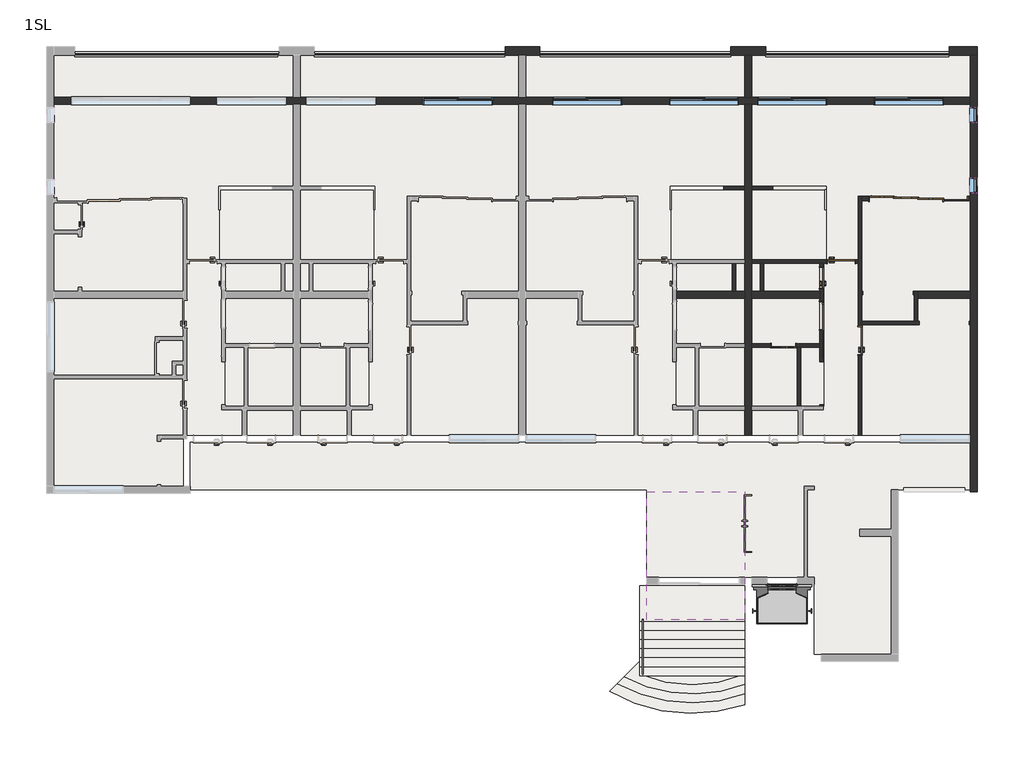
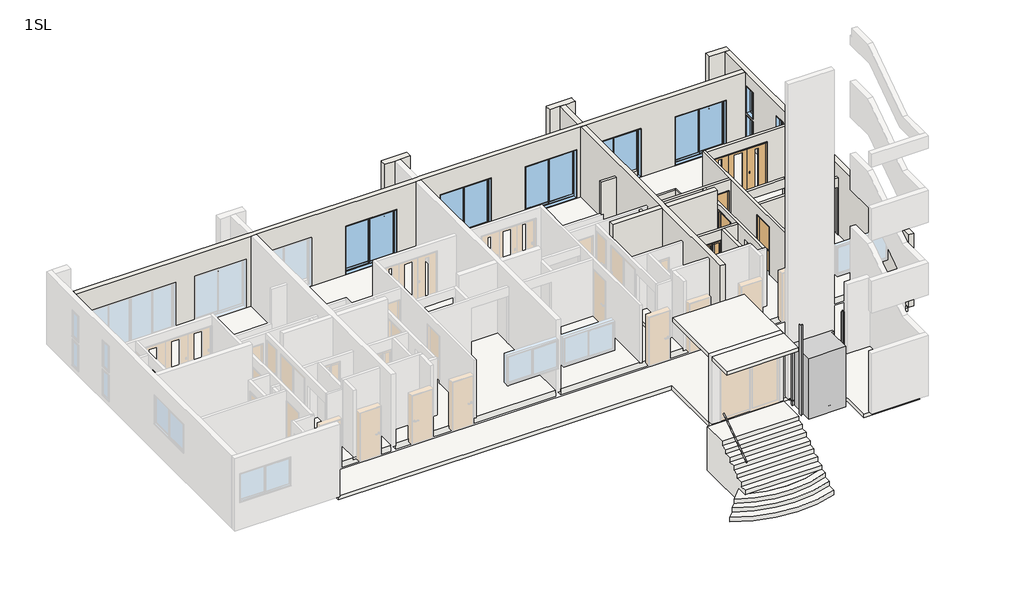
# One storey, part 3 of 3: 23 walls, 15 slabs, 9 windows, 6 doors, 4 railings, 2 plates, 2 proxies.
"""IFC4 building model written with IfcOpenShell, lengths in millimetres."""

from ifc_helpers import new_model, si_unit, frame, origin, place, context, project, spatial, polyline, outline, extrude, faceted_brep, transform, mapped, element, save
from components import generic_models_6d567278, specialty_equipment_c2b478e0, door_c7dcdbed, door_8f2de950, door_3b96e66a, door_aabc7979, door_3f60c47c, door_31a51f76, system_panel_37aab131, system_panel_3b8cd947, railing_c7063d63, railing_074a9b7f, railing_fb2e8326, railing_f43283ec, slab_74460c11, window_4c3e1407, window_5dc29a3f, window_ec430ee0, window_a2a98c4b, w0450_h1100_93ba837a, w0450_h1100_e5a89885

model = new_model("IFC4")

# Units and contexts
model_context = context("Model", 3, world=origin())
ifc_project = project(units=[si_unit("LENGTHUNIT", "METRE", prefix="MILLI")], contexts=[model_context])

# Site, building, storey
site = spatial("IfcSite", under=ifc_project)
building = spatial("IfcBuilding", under=site)
storey = spatial("IfcBuildingStorey", under=building, Name="1SL", Elevation=1000.0)

# Proxies
placement = place(None, origin())
generic_models_shape = generic_models_6d567278(model_context)
element("IfcBuildingElementProxy", 1, Name="玄関手摺 : 玄関手摺", ObjectType="玄関手摺 : 玄関手摺", at=placement, inside=storey, context=model_context, shape_type="MappedRepresentation", body=[
    mapped(generic_models_shape, transform((17290.0, 0.0, 1100.0), x_axis=(1.0, 0.0, 0.0), y_axis=(0.0, 1.0, 0.0), z_axis=(0.0, 0.0, 1.0))),
])
specialty_equipment_shape = specialty_equipment_c2b478e0(model_context)
element("IfcBuildingElementProxy", 2, Name="エレベーター_ガラス扉 : 6人乗", ObjectType="エレベーター_ガラス扉 : 6人乗", at=placement, inside=storey, context=model_context, shape_type="MappedRepresentation", body=[
    mapped(specialty_equipment_shape, transform((10204.3805904, -4969.7401342, 1000.0), x_axis=(1.0, 0.0, 0.0), y_axis=(0.0, 1.0, 0.0), z_axis=(0.0, 0.0, 1.0))),
])

# Doors
door_shape = door_c7dcdbed(model_context)
element("IfcDoor", 3, ObjectType="木製_片開き_フラッシュ : WD-2 w600h2000", at=placement, inside=storey, context=model_context, shape_type="MappedRepresentation", body=[
    mapped(door_shape, transform((11454.3805905, 3696.254513, 1210.0), x_axis=(0.0, 1.0, 0.0), y_axis=(-1.0, 0.0, 0.0), z_axis=(0.0, 0.0, 1.0))),
])
door_2_shape = door_8f2de950(model_context)
element("IfcDoor", 4, ObjectType="木製_片開き_フラッシュ : WD-1\u3000w800h2000", at=placement, inside=storey, context=model_context, shape_type="MappedRepresentation", body=[
    mapped(door_2_shape, transform((12554.3805905, 1900.2598658, 1060.0), x_axis=(0.0, 1.0, 0.0), y_axis=(-1.0, 0.0, 0.0), z_axis=(0.0, 0.0, 1.0))),
])
door_3_shape = door_3b96e66a(model_context)
element("IfcDoor", 5, ObjectType="木製_片開き_フラッシュ : WD-1\u3000w800h2000", at=placement, inside=storey, context=model_context, shape_type="MappedRepresentation", body=[
    mapped(door_3_shape, transform((12014.3805905, 4160.2598658, 1000.0), x_axis=(1.0, 0.0, 0.0), y_axis=(0.0, 1.0, 0.0), z_axis=(0.0, 0.0, 1.0))),
])
door_4_shape = door_aabc7979(model_context)
element("IfcDoor", 6, ObjectType="木製_折戸2枚_フラッシュ(UB) : UB-1 w600h2000", at=placement, inside=storey, context=model_context, shape_type="MappedRepresentation", body=[
    mapped(door_4_shape, transform((10364.3805905, 1760.2598658, 1000.0), x_axis=(-1.0, 0.0, 0.0), y_axis=(0.0, -1.0, 0.0), z_axis=(0.0, 0.0, 1.0))),
])
door_5_shape = door_3f60c47c(model_context)
element("IfcDoor", 7, ObjectType="木製_片引き_フラッシュ : WD-4 w800h2000", at=placement, inside=storey, context=model_context, shape_type="MappedRepresentation", body=[
    mapped(door_5_shape, transform((11454.3805905, 2610.719009, 1210.0), x_axis=(0.0, -1.0, 0.0), y_axis=(1.0, 0.0, 0.0), z_axis=(0.0, 0.0, 1.0))),
])
door_6_shape = door_31a51f76(model_context)
element("IfcDoor", 8, ObjectType="木製_片引き3枚_フラッシュ2 : WD-9 w2100h2000", at=placement, inside=storey, context=model_context, shape_type="MappedRepresentation", body=[
    mapped(door_6_shape, transform((13879.9160944, 5960.2598658, 1060.0), x_axis=(1.0, 0.0, 0.0), y_axis=(0.0, 1.0, 0.0), z_axis=(0.0, 0.0, 1.0))),
])

# Plates
system_panel_shape = system_panel_37aab131(model_context)
element("IfcPlate", 9, ObjectType="システム パネル : System Panel", at=placement, inside=storey, context=model_context, shape_type="MappedRepresentation", body=[
    mapped(system_panel_shape, transform((6129.3805905, 10097.7598658, 1000.0), x_axis=(1.0, 0.0, 0.0), y_axis=(0.0, 1.0, 0.0), z_axis=(0.0, 0.0, 1.0))),
])
system_panel_2_shape = system_panel_3b8cd947(model_context)
element("IfcPlate", 10, ObjectType="システム パネル : System Panel", at=placement, inside=storey, context=model_context, shape_type="MappedRepresentation", body=[
    mapped(system_panel_2_shape, transform((12479.3805905, 10097.7598658, 1000.0), x_axis=(-1.0, 0.0, 0.0), y_axis=(0.0, -1.0, 0.0), z_axis=(0.0, 0.0, 1.0))),
])

# Railings
railing_shape = railing_c7063d63(model_context)
element("IfcRailing", 11, ObjectType="バルコニー手摺", at=placement, inside=storey, context=model_context, shape_type="MappedRepresentation", body=[
    mapped(railing_shape, transform((0.0, 0.0, 0.0), x_axis=(1.0, 0.0, 0.0), y_axis=(0.0, 1.0, 0.0), z_axis=(0.0, 0.0, 1.0))),
])
railing_2_shape = railing_074a9b7f(model_context)
element("IfcRailing", 12, ObjectType="バルコニー手摺", at=placement, inside=storey, context=model_context, shape_type="MappedRepresentation", body=[
    mapped(railing_2_shape, transform((0.0, 0.0, 0.0), x_axis=(1.0, 0.0, 0.0), y_axis=(0.0, 1.0, 0.0), z_axis=(0.0, 0.0, 1.0))),
])
railing_3_shape = railing_fb2e8326(model_context)
element("IfcRailing", 13, ObjectType="バルコニー手摺", at=placement, inside=storey, context=model_context, shape_type="MappedRepresentation", body=[
    mapped(railing_3_shape, transform((0.0, 0.0, 0.0), x_axis=(1.0, 0.0, 0.0), y_axis=(0.0, 1.0, 0.0), z_axis=(0.0, 0.0, 1.0))),
])
railing_4_shape = railing_f43283ec(model_context)
element("IfcRailing", 14, ObjectType="バルコニー手摺", at=placement, inside=storey, context=model_context, shape_type="MappedRepresentation", body=[
    mapped(railing_4_shape, transform((0.0, 0.0, 0.0), x_axis=(1.0, 0.0, 0.0), y_axis=(0.0, 1.0, 0.0), z_axis=(0.0, 0.0, 1.0))),
])

# Slabs
element("IfcSlab", 15, ObjectType="SCON150", at=placement, inside=storey, context=model_context, shape_type="SweptSolid", body=[
    extrude(outline(polyline([(-10495.6194095, 10159.9866207), (-3645.6194095, 10159.9866207), (-3645.6194095, 8860.2598658), (-10495.6194095, 8860.2598658), (-10495.6194095, 10159.9866207)])), frame((0.0, 0.0, 750.0), z_axis=(0.0, 0.0, 1.0), x_axis=(1.0, 0.0, 0.0)), (0.0, 0.0, 1.0), 150.0),
])
element("IfcSlab", 16, ObjectType="SCON150", at=placement, inside=storey, context=model_context, shape_type="SweptSolid", body=[
    extrude(outline(polyline([(15704.3805905, 8860.2598658), (9454.3805905, 8860.2598658), (9454.3805905, 10159.9866207), (15704.3805905, 10159.9866207), (15704.3805905, 8860.2598658)])), frame((0.0, 0.0, 750.0), z_axis=(0.0, 0.0, 1.0), x_axis=(1.0, 0.0, 0.0)), (0.0, 0.0, 1.0), 150.0),
])
element("IfcSlab", 17, ObjectType="SCON150+100", at=placement, inside=storey, context=model_context, shape_type="SweptSolid", body=[
    extrude(outline(polyline([(-10495.6194095, 8860.2598658), (-3645.6194095, 8860.2598658), (-3645.6194095, 6215.254513), (-5745.6194095, 6215.254513), (-5745.6194095, 4210.2598658), (-5595.6194095, 4210.2598658), (-5595.6194095, 30.2598658), (-3645.6194095, 30.2598658), (-3645.6194095, -809.7401342), (-6795.6194095, -809.7401342), (-6795.6194095, -2259.7401342), (-10495.6194095, -2259.7401342), (-10495.6194095, 8860.2598658)])), frame((0.0, 0.0, 850.0), z_axis=(0.0, 0.0, 1.0), x_axis=(1.0, 0.0, 0.0)), (0.0, 0.0, 1.0), 250.0),
])
element("IfcSlab", 18, ObjectType="SCON150+210", at=placement, inside=storey, context=model_context, shape_type="SweptSolid", body=[
    extrude(outline(polyline([(-5745.6194095, 6215.254513), (-3645.6194095, 6215.254513), (-3645.6194095, 30.2598658), (-5595.6194095, 30.2598658), (-5595.6194095, 4210.2598658), (-5745.6194095, 4210.2598658), (-5745.6194095, 6215.254513)])), frame((0.0, 0.0, 850.0), z_axis=(0.0, 0.0, 1.0), x_axis=(1.0, 0.0, 0.0)), (0.0, 0.0, 1.0), 360.0),
])
element("IfcSlab", 19, ObjectType="SCON150+100", at=placement, inside=storey, context=model_context, shape_type="SweptSolid", body=[
    extrude(outline(polyline([(2804.3805905, 8860.2598658), (2804.3805905, -809.7401342), (-3445.6194095, -809.7401342), (-3445.6194095, 30.2598658), (-1495.6194095, 30.2598658), (-1495.6194095, 4210.2598658), (-1345.6194095, 4210.2598658), (-1345.6194095, 6215.254513), (-3445.6194095, 6215.254513), (-3445.6194095, 8860.2598658), (2804.3805905, 8860.2598658)])), frame((0.0, 0.0, 850.0), z_axis=(0.0, 0.0, 1.0), x_axis=(1.0, 0.0, 0.0)), (0.0, 0.0, 1.0), 250.0),
])
element("IfcSlab", 20, ObjectType="SCON150+210", at=placement, inside=storey, context=model_context, shape_type="SweptSolid", body=[
    extrude(outline(polyline([(-1345.6194095, 6215.254513), (-1345.6194095, 4210.2598658), (-1495.6194095, 4210.2598658), (-1495.6194095, 30.2598658), (-3445.6194095, 30.2598658), (-3445.6194095, 6215.254513), (-1345.6194095, 6215.254513)])), frame((0.0, 0.0, 850.0), z_axis=(0.0, 0.0, 1.0), x_axis=(1.0, 0.0, 0.0)), (0.0, 0.0, 1.0), 360.0),
])
element("IfcSlab", 21, ObjectType="SCON150+100", at=placement, inside=storey, context=model_context, shape_type="SweptSolid", body=[
    extrude(outline(polyline([(3004.3805905, 8760.2598658), (9254.3805905, 8760.2598658), (9254.3805905, 6215.254513), (7154.3805905, 6215.254513), (7154.3805905, 4210.2598658), (7304.3805905, 4210.2598658), (7304.3805905, 30.2598658), (9254.3805905, 30.2598658), (9254.3805905, -809.7401342), (3004.3805905, -809.7401342), (3004.3805905, 8760.2598658)])), frame((0.0, 0.0, 850.0), z_axis=(0.0, 0.0, 1.0), x_axis=(1.0, 0.0, 0.0)), (0.0, 0.0, 1.0), 250.0),
])
element("IfcSlab", 22, ObjectType="SCON150+210", at=placement, inside=storey, context=model_context, shape_type="SweptSolid", body=[
    extrude(outline(polyline([(7154.3805905, 6215.254513), (9254.3805905, 6215.254513), (9254.3805905, 30.2598658), (7304.3805905, 30.2598658), (7304.3805905, 4210.2598658), (7154.3805905, 4210.2598658), (7154.3805905, 6215.254513)])), frame((0.0, 0.0, 850.0), z_axis=(0.0, 0.0, 1.0), x_axis=(1.0, 0.0, 0.0)), (0.0, 0.0, 1.0), 360.0),
])
element("IfcSlab", 23, ObjectType="SCON150+100", at=placement, inside=storey, context=model_context, shape_type="SweptSolid", body=[
    extrude(outline(polyline([(15704.3805905, -809.7401342), (9454.3805905, -809.7401342), (9454.3805905, 30.2598658), (11514.3805905, 30.2598658), (11514.3805905, 4210.2598658), (11583.8805905, 4210.2598658), (11583.8805905, 6215.254513), (9454.3805905, 6215.254513), (9454.3805905, 8760.2598658), (15704.3805905, 8760.2598658), (15704.3805905, -809.7401342)])), frame((0.0, 0.0, 850.0), z_axis=(0.0, 0.0, 1.0), x_axis=(1.0, 0.0, 0.0)), (0.0, 0.0, 1.0), 250.0),
])
element("IfcSlab", 24, ObjectType="SCON150+210", at=placement, inside=storey, context=model_context, shape_type="SweptSolid", body=[
    extrude(outline(polyline([(11583.8805905, 6215.254513), (11583.8805905, 4210.2598658), (11514.3805905, 4210.2598658), (11514.3805905, 30.2598658), (9454.3805905, 30.2598658), (9454.3805905, 6215.254513), (11583.8805905, 6215.254513)])), frame((0.0, 0.0, 850.0), z_axis=(0.0, 0.0, 1.0), x_axis=(1.0, 0.0, 0.0)), (0.0, 0.0, 1.0), 360.0),
])
element("IfcSlab", 25, ObjectType="SCON150", at=placement, inside=storey, context=model_context, shape_type="SweptSolid", body=[
    extrude(outline(polyline([(-6595.6194095, -1009.7401342), (15704.3805905, -1009.7401342), (15704.3805905, -2359.7401342), (13454.3805905, -2359.7401342), (13454.3805905, -7069.7401342), (11254.3805905, -7069.7401342), (11254.3805905, -4869.7401342), (6454.3805905, -4869.7401342), (6454.3805905, -2359.7401342), (-6595.6194095, -2359.7401342), (-6595.6194095, -1009.7401342)])), frame((0.0, 0.0, 800.0), z_axis=(0.0, 0.0, 1.0), x_axis=(1.0, 0.0, 0.0)), (0.0, 0.0, 1.0), 150.0),
])
element("IfcSlab", 26, ObjectType="SCON150", at=placement, inside=storey, context=model_context, shape_type="SweptSolid", body=[
    extrude(outline(polyline([(3004.3805905, 10159.9866207), (9254.3805905, 10159.9866207), (9254.3805905, 8860.2598658), (3004.3805905, 8860.2598658), (3004.3805905, 10159.9866207)])), frame((0.0, 0.0, 750.0), z_axis=(0.0, 0.0, 1.0), x_axis=(1.0, 0.0, 0.0)), (0.0, 0.0, 1.0), 150.0),
])
element("IfcSlab", 27, ObjectType="SCON150", at=placement, inside=storey, context=model_context, shape_type="SweptSolid", body=[
    extrude(outline(polyline([(2804.3805905, 10159.9866207), (2804.3805905, 8860.2598658), (-3445.6194095, 8860.2598658), (-3445.6194095, 10159.9866207), (2804.3805905, 10159.9866207)])), frame((0.0, 0.0, 800.0), z_axis=(0.0, 0.0, 1.0), x_axis=(1.0, 0.0, 0.0)), (0.0, 0.0, 1.0), 150.0),
])
element("IfcSlab", 28, ObjectType="SCON150", at=placement, inside=storey, context=model_context, shape_type="SweptSolid", body=[
    extrude(outline(polyline([(9254.3805905, -2419.7401342), (9254.3805905, -6079.7401342), (6454.3805905, -6079.7401342), (6454.3805905, -2419.7401342), (9254.3805905, -2419.7401342)])), frame((0.0, 0.0, 3650.0), z_axis=(0.0, 0.0, 1.0), x_axis=(1.0, 0.0, 0.0)), (0.0, 0.0, 1.0), 150.0),
])
slab_shape = slab_74460c11(model_context)
element("IfcSlab", 29, ObjectType="ENT階段1 : ENT階段", at=placement, inside=storey, context=model_context, shape_type="MappedRepresentation", body=[
    mapped(slab_shape, transform((0.0, 0.0, 0.0), x_axis=(1.0, 0.0, 0.0), y_axis=(0.0, 1.0, 0.0), z_axis=(0.0, 0.0, 1.0))),
])

# Walls
element("IfcWall", 30, ObjectType="(F)30", at=placement, inside=storey, context=model_context, shape_type="Brep", body=[
    faceted_brep([(11553.8805905, 6215.254513, 1060.0), (11553.8805905, 5645.254513, 1060.0), (11553.8805905, 5645.254513, 2120.0), (11553.8805905, 6215.254513, 2120.0), (11583.8805905, 6215.254513, 1060.0), (11583.8805905, 6215.254513, 2060.0), (11583.8805905, 6215.254513, 2120.0), (11583.8805905, 5645.254513, 2120.0), (11583.8805905, 5645.254513, 1060.0)], [[[0, 1, 2, 3]], [[4, 5, 6, 7, 8]], [[1, 0, 4, 8]], [[2, 1, 8, 7]], [[3, 2, 7, 6]], [[0, 3, 6, 5, 4]]]),
])
element("IfcWall", 31, ObjectType="(L)100", at=placement, inside=storey, context=model_context, shape_type="SweptSolid", body=[
    extrude(outline(polyline([(9254.3805905, 6215.254513), (8654.3805905, 6215.254513), (8654.3805905, 6315.254513), (9254.3805905, 6315.254513), (9254.3805905, 6215.254513)])), frame((0.0, 0.0, 1000.0), z_axis=(0.0, 0.0, 1.0), x_axis=(1.0, 0.0, 0.0)), (0.0, 0.0, 1.0), 2400.0),
])
element("IfcWall", 32, ObjectType="(L)100", at=placement, inside=storey, context=model_context, shape_type="SweptSolid", body=[
    extrude(outline(polyline([(8904.3805905, 3310.2598658), (8904.3805905, 4110.2598658), (9004.3805905, 4110.2598658), (9004.3805905, 3310.2598658), (8904.3805905, 3310.2598658)])), frame((0.0, 0.0, 1000.0), z_axis=(0.0, 0.0, 1.0), x_axis=(1.0, 0.0, 0.0)), (0.0, 0.0, 1.0), 2460.0),
])
element("IfcWall", 33, ObjectType="(L)100", at=placement, inside=storey, context=model_context, shape_type="Brep", body=[
    faceted_brep([(12504.3805905, 1480.2598658, 3080.0), (12504.3805905, 1480.2598658, 1060.0), (12504.3805905, -809.7401342, 1060.0), (12504.3805905, -809.7401342, 3460.0), (12504.3805905, 4110.2598658, 3460.0), (12504.3805905, 4210.2598658, 3460.0), (12504.3805905, 6022.7598658, 3460.0), (12504.3805905, 6022.7598658, 1060.0), (12504.3805905, 2320.2598658, 1060.0), (12504.3805905, 2320.2598658, 3080.0), (12604.3805905, -809.7401342, 1060.0), (12604.3805905, 1480.2598658, 1060.0), (12604.3805905, 1480.2598658, 3080.0), (12604.3805905, 2320.2598658, 3080.0), (12604.3805905, 2320.2598658, 1060.0), (12604.3805905, 2360.2598658, 1060.0), (12604.3805905, 2460.2598658, 1060.0), (12604.3805905, 5897.7598658, 1060.0), (12604.3805905, 6022.7598658, 1060.0), (12604.3805905, 6022.7598658, 3460.0), (12604.3805905, 5897.7598658, 3460.0), (12604.3805905, 3310.2598658, 3460.0), (12604.3805905, 3210.2598658, 3460.0), (12604.3805905, 2460.2598658, 3460.0), (12604.3805905, 2360.2598658, 3460.0), (12604.3805905, -809.7401342, 3460.0)], [[[0, 1, 2, 3, 4, 5, 6, 7, 8, 9]], [[10, 11, 12, 13, 14, 15, 16, 17, 18, 19, 20, 21, 22, 23, 24, 25]], [[2, 1, 11, 10]], [[8, 7, 18, 17, 16, 15, 14]], [[6, 5, 4, 3, 25, 24, 23, 22, 21, 20, 19]], [[7, 6, 19, 18]], [[3, 2, 10, 25]], [[14, 13, 9, 8]], [[12, 11, 1, 0]], [[13, 12, 0, 9]]]),
])
element("IfcWall", 34, ObjectType="(L)100", at=placement, inside=storey, context=model_context, shape_type="Brep", body=[
    faceted_brep([(15704.3805905, 2460.2598658, 1060.0), (15684.3805905, 2460.2598658, 1060.0), (15684.3805905, 2460.2598658, 3080.0), (14244.3805905, 2460.2598658, 3080.0), (14244.3805905, 2460.2598658, 1060.0), (12604.3805905, 2460.2598658, 1060.0), (12604.3805905, 2460.2598658, 3460.0), (14104.3805905, 2460.2598658, 3460.0), (14204.3805905, 2460.2598658, 3460.0), (15704.3805905, 2460.2598658, 3460.0), (15684.3805905, 2360.2598658, 3080.0), (15684.3805905, 2360.2598658, 1060.0), (15704.3805905, 2360.2598658, 1060.0), (15704.3805905, 2360.2598658, 3460.0), (12604.3805905, 2360.2598658, 3460.0), (12604.3805905, 2360.2598658, 1060.0), (14244.3805905, 2360.2598658, 1060.0), (14244.3805905, 2360.2598658, 3080.0)], [[[0, 1, 2, 3, 4, 5, 6, 7, 8, 9]], [[10, 11, 12, 13, 14, 15, 16, 17]], [[12, 11, 1, 0]], [[16, 15, 5, 4]], [[9, 8, 7, 6, 14, 13]], [[0, 9, 13, 12]], [[6, 5, 15, 14]], [[4, 3, 17, 16]], [[2, 1, 11, 10]], [[3, 2, 10, 17]]]),
])
element("IfcWall", 35, ObjectType="(L)100", at=placement, inside=storey, context=model_context, shape_type="Brep", body=[
    faceted_brep([(14104.3805905, 3310.2598658, 1000.0), (14104.3805905, 3210.2598658, 1000.0), (14104.3805905, 2460.2598658, 1000.0), (14104.3805905, 2460.2598658, 3460.0), (14104.3805905, 3210.2598658, 3460.0), (14104.3805905, 3310.2598658, 3460.0), (14204.3805905, 3310.2598658, 1000.0), (14204.3805905, 3310.2598658, 3460.0), (14204.3805905, 2460.2598658, 3460.0), (14204.3805905, 2460.2598658, 1000.0), (14204.3805905, 3110.2598658, 1000.0)], [[[0, 1, 2, 3, 4, 5]], [[6, 7, 8, 9, 10]], [[2, 1, 0, 6, 10, 9]], [[5, 4, 3, 8, 7]], [[0, 5, 7, 6]], [[3, 2, 9, 8]]]),
])
element("IfcWall", 36, ObjectType="(L)100", at=placement, inside=storey, context=model_context, shape_type="Brep", body=[
    faceted_brep([(11504.3805905, 4110.2598658, 3460.0), (11504.3805905, 30.2598658, 3460.0), (11504.3805905, 30.2598658, 1060.0), (11504.3805905, 60.2598658, 1060.0), (11504.3805905, 60.2598658, 3080.0), (11504.3805905, 1300.2598658, 3080.0), (11504.3805905, 1300.2598658, 1060.0), (11504.3805905, 4110.2598658, 1060.0), (11504.3805905, 1396.254513, 3230.0), (11504.3805905, 3036.254513, 3230.0), (11504.3805905, 3036.254513, 1210.0), (11504.3805905, 1396.254513, 1210.0), (11504.3805905, 4016.254513, 3230.0), (11504.3805905, 4016.254513, 1210.0), (11504.3805905, 3376.254513, 1210.0), (11504.3805905, 3376.254513, 3230.0), (11404.3805905, 30.2598658, 3460.0), (11404.3805905, 1710.2598658, 3460.0), (11404.3805905, 1810.2598658, 3460.0), (11404.3805905, 4110.2598658, 3460.0), (11404.3805905, 4110.2598658, 1060.0), (11404.3805905, 1300.2598658, 1060.0), (11404.3805905, 1300.2598658, 3080.0), (11404.3805905, 60.2598658, 3080.0), (11404.3805905, 60.2598658, 1060.0), (11404.3805905, 30.2598658, 1060.0), (11404.3805905, 3036.254513, 3230.0), (11404.3805905, 2196.254513, 3230.0), (11404.3805905, 2196.254513, 1210.0), (11404.3805905, 3036.254513, 1210.0), (11404.3805905, 4016.254513, 1210.0), (11404.3805905, 4016.254513, 3230.0), (11404.3805905, 3376.254513, 3230.0), (11404.3805905, 3376.254513, 1210.0), (11474.3805905, 1396.254513, 3230.0), (11474.3805905, 2196.254513, 3230.0), (11474.3805905, 2196.254513, 1210.0), (11474.3805905, 1396.254513, 1210.0)], [[[0, 1, 2, 3, 4, 5, 6, 7], [8, 9, 10, 11], [12, 13, 14, 15]], [[16, 17, 18, 19, 20, 21, 22, 23, 24, 25], [26, 27, 28, 29], [30, 31, 32, 33]], [[20, 7, 6, 21]], [[2, 25, 24, 3]], [[1, 0, 19, 18, 17, 16]], [[0, 7, 20, 19]], [[2, 1, 16, 25]], [[5, 22, 21, 6]], [[23, 4, 3, 24]], [[22, 5, 4, 23]], [[34, 35, 27, 26, 9, 8]], [[9, 26, 29, 10]], [[36, 37, 11, 10, 29, 28]], [[35, 36, 28, 27]], [[35, 34, 37, 36]], [[37, 34, 8, 11]], [[12, 31, 30, 13]], [[13, 30, 33, 14]], [[14, 33, 32, 15]], [[31, 12, 15, 32]]]),
])
element("IfcWall", 37, ObjectType="(L)100", at=placement, inside=storey, context=model_context, shape_type="SweptSolid", body=[
    extrude(outline(polyline([(9454.3805905, 6315.254513), (10054.3805905, 6315.254513), (10054.3805905, 6215.254513), (9454.3805905, 6215.254513), (9454.3805905, 6315.254513)])), frame((0.0, 0.0, 1000.0), z_axis=(0.0, 0.0, 1.0), x_axis=(1.0, 0.0, 0.0)), (0.0, 0.0, 1.0), 2400.0),
])
element("IfcWall", 38, ObjectType="(L)100", at=placement, inside=storey, context=model_context, shape_type="Brep", body=[
    faceted_brep([(9979.3805905, 6215.254513, 1060.0), (11553.8805905, 6215.254513, 1060.0), (11583.8805905, 6215.254513, 1060.0), (11583.8805905, 6215.254513, 2060.0), (9979.3805905, 6215.254513, 2060.0), (9979.3805905, 6315.254513, 1060.0), (9979.3805905, 6315.254513, 2060.0), (11583.8805905, 6315.254513, 2060.0), (11583.8805905, 6315.254513, 1060.0)], [[[0, 1, 2, 3, 4]], [[5, 6, 7, 8]], [[2, 1, 0, 5, 8]], [[4, 3, 7, 6]], [[0, 4, 6, 5]], [[3, 2, 8, 7]]]),
])
element("IfcWall", 39, ObjectType="(L)100", at=placement, inside=storey, context=model_context, shape_type="SweptSolid", body=[
    extrude(outline(polyline([(9704.3805905, 3310.2598658), (9704.3805905, 4110.2598658), (9804.3805905, 4110.2598658), (9804.3805905, 3310.2598658), (9704.3805905, 3310.2598658)])), frame((0.0, 0.0, 1000.0), z_axis=(0.0, 0.0, 1.0), x_axis=(1.0, 0.0, 0.0)), (0.0, 0.0, 1.0), 2460.0),
])
element("IfcWall", 40, ObjectType="(L)100", at=placement, inside=storey, context=model_context, shape_type="Brep", body=[
    faceted_brep([(10734.3805905, 1710.2598658, 3020.0), (10734.3805905, 1710.2598658, 1000.0), (10764.3805905, 1710.2598658, 1000.0), (10864.3805905, 1710.2598658, 1000.0), (11404.3805905, 1710.2598658, 1000.0), (11404.3805905, 1710.2598658, 3460.0), (10864.3805905, 1710.2598658, 3460.0), (10764.3805905, 1710.2598658, 3460.0), (9454.3805905, 1710.2598658, 3460.0), (9454.3805905, 1710.2598658, 1000.0), (9994.3805905, 1710.2598658, 1000.0), (9994.3805905, 1710.2598658, 3020.0), (11404.3805905, 1810.2598658, 1000.0), (10734.3805905, 1810.2598658, 1000.0), (10734.3805905, 1810.2598658, 3020.0), (9994.3805905, 1810.2598658, 3020.0), (9994.3805905, 1810.2598658, 1000.0), (9454.3805905, 1810.2598658, 1000.0), (9454.3805905, 1810.2598658, 3460.0), (11404.3805905, 1810.2598658, 3460.0)], [[[0, 1, 2, 3, 4, 5, 6, 7, 8, 9, 10, 11]], [[12, 13, 14, 15, 16, 17, 18, 19]], [[4, 3, 2, 1, 13, 12]], [[10, 9, 17, 16]], [[8, 7, 6, 5, 19, 18]], [[9, 8, 18, 17]], [[5, 4, 12, 19]], [[16, 15, 11, 10]], [[14, 13, 1, 0]], [[15, 14, 0, 11]]]),
])
element("IfcWall", 41, ObjectType="(L)100", at=placement, inside=storey, context=model_context, shape_type="Brep", body=[
    faceted_brep([(9454.3805905, 4110.2598658, 1000.0), (9704.3805905, 4110.2598658, 1000.0), (9804.3805905, 4110.2598658, 1000.0), (11594.3805905, 4110.2598658, 1000.0), (11594.3805905, 4110.2598658, 3020.0), (12434.3805905, 4110.2598658, 3020.0), (12434.3805905, 4110.2598658, 1000.0), (12504.3805905, 4110.2598658, 1000.0), (12504.3805905, 4110.2598658, 3460.0), (11504.3805905, 4110.2598658, 3460.0), (11404.3805905, 4110.2598658, 3460.0), (9804.3805905, 4110.2598658, 3460.0), (9704.3805905, 4110.2598658, 3460.0), (9454.3805905, 4110.2598658, 3460.0), (11594.3805905, 4210.2598658, 3020.0), (11594.3805905, 4210.2598658, 1000.0), (9454.3805905, 4210.2598658, 1000.0), (9454.3805905, 4210.2598658, 3460.0), (12504.3805905, 4210.2598658, 3460.0), (12504.3805905, 4210.2598658, 1000.0), (12434.3805905, 4210.2598658, 1000.0), (12434.3805905, 4210.2598658, 3020.0)], [[[0, 1, 2, 3, 4, 5, 6, 7, 8, 9, 10, 11, 12, 13]], [[14, 15, 16, 17, 18, 19, 20, 21]], [[16, 15, 3, 2, 1, 0]], [[20, 19, 7, 6]], [[13, 12, 11, 10, 9, 8, 18, 17]], [[0, 13, 17, 16]], [[8, 7, 19, 18]], [[6, 5, 21, 20]], [[4, 3, 15, 14]], [[5, 4, 14, 21]]]),
])
element("IfcWall", 42, ObjectType="(L)100", at=placement, inside=storey, context=model_context, shape_type="SweptSolid", body=[
    extrude(outline(polyline([(1000.0, 12604.3805905), (1000.0, 14104.3805905), (3460.0, 14104.3805905), (3460.0, 12604.3805905), (1000.0, 12604.3805905)]), holes=[polyline([(1060.0, 14074.3805905), (1060.0, 12634.3805905), (3080.0, 12634.3805905), (3080.0, 14074.3805905), (1060.0, 14074.3805905)])]), frame((0.0, 3210.2598658, 0.0), z_axis=(0.0, 1.0, 0.0), x_axis=(0.0, 0.0, 1.0)), (0.0, 0.0, 1.0), 100.0),
])
element("IfcWall", 43, ObjectType="(L)100", at=placement, inside=storey, context=model_context, shape_type="SweptSolid", body=[
    extrude(outline(polyline([(10764.3805905, 30.2598658), (10764.3805905, 1710.2598658), (10864.3805905, 1710.2598658), (10864.3805905, 30.2598658), (10764.3805905, 30.2598658)])), frame((0.0, 0.0, 1000.0), z_axis=(0.0, 0.0, 1.0), x_axis=(1.0, 0.0, 0.0)), (0.0, 0.0, 1.0), 2460.0),
])
element("IfcWall", 44, ObjectType="(L1)125", at=placement, inside=storey, context=model_context, shape_type="Brep", body=[
    faceted_brep([(15704.3805905, 5897.7598658, 3460.0), (12604.3805905, 5897.7598658, 3460.0), (12604.3805905, 5897.7598658, 1060.0), (12804.3805905, 5897.7598658, 1060.0), (12804.3805905, 5897.7598658, 3080.0), (14944.3805905, 5897.7598658, 3080.0), (14944.3805905, 5897.7598658, 1060.0), (15704.3805905, 5897.7598658, 1060.0), (12604.3805905, 6022.7598658, 3460.0), (15704.3805905, 6022.7598658, 3460.0), (15704.3805905, 6022.7598658, 1060.0), (15644.3805905, 6022.7598658, 1060.0), (15644.3805905, 6022.7598658, 3080.0), (12804.3805905, 6022.7598658, 3080.0), (12804.3805905, 6022.7598658, 1060.0), (12604.3805905, 6022.7598658, 1060.0), (14944.3805905, 5932.7598658, 1060.0), (15644.3805905, 5932.7598658, 1060.0), (15644.3805905, 5932.7598658, 3080.0), (14944.3805905, 5932.7598658, 3080.0)], [[[0, 1, 2, 3, 4, 5, 6, 7]], [[8, 9, 10, 11, 12, 13, 14, 15]], [[10, 7, 6, 16, 17, 11]], [[2, 15, 14, 3]], [[1, 0, 9, 8]], [[0, 7, 10, 9]], [[2, 1, 8, 15]], [[18, 19, 5, 4, 13, 12]], [[13, 4, 3, 14]], [[19, 16, 6, 5]], [[19, 18, 17, 16]], [[17, 18, 12, 11]]]),
])
element("IfcWall", 45, ObjectType="(R)200", at=placement, inside=storey, context=model_context, shape_type="Brep", body=[
    faceted_brep([(15704.3805905, 8860.2598658, 1000.0), (9454.3805905, 8860.2598658, 1000.0), (9254.3805905, 8860.2598658, 1000.0), (3004.3805905, 8860.2598658, 1000.0), (2804.3805905, 8860.2598658, 1000.0), (-3445.6194095, 8860.2598658, 1000.0), (-3645.6194095, 8860.2598658, 1000.0), (-10495.6194095, 8860.2598658, 1000.0), (-10495.6194095, 8860.2598658, 4000.0), (-3645.6194095, 8860.2598658, 4000.0), (-3445.6194095, 8860.2598658, 4000.0), (2804.3805905, 8860.2598658, 4000.0), (3004.3805905, 8860.2598658, 4000.0), (9254.3805905, 8860.2598658, 4000.0), (9454.3805905, 8860.2598658, 4000.0), (15704.3805905, 8860.2598658, 4000.0), (14954.3805905, 8860.2598658, 1120.0), (14954.3805905, 8860.2598658, 3120.0), (12954.3805905, 8860.2598658, 3120.0), (12954.3805905, 8860.2598658, 1120.0), (11614.3805905, 8860.2598658, 1120.0), (11614.3805905, 8860.2598658, 3120.0), (9614.3805905, 8860.2598658, 3120.0), (9614.3805905, 8860.2598658, 1120.0), (5754.3805905, 8860.2598658, 1120.0), (5754.3805905, 8860.2598658, 3120.0), (3754.3805905, 8860.2598658, 3120.0), (3754.3805905, 8860.2598658, 1120.0), (7094.3805905, 8860.2598658, 1120.0), (9094.3805905, 8860.2598658, 1120.0), (9094.3805905, 8860.2598658, 3120.0), (7094.3805905, 8860.2598658, 3120.0), (54.3805905, 8860.2598658, 1120.0), (2054.3805905, 8860.2598658, 1120.0), (2054.3805905, 8860.2598658, 3120.0), (54.3805905, 8860.2598658, 3120.0), (-9994.6785744, 8860.2598658, 1120.0), (-6594.6785744, 8860.2598658, 1120.0), (-6594.6785744, 8860.2598658, 3120.0), (-9994.6785744, 8860.2598658, 3120.0), (-1285.6194095, 8860.2598658, 1120.0), (-1285.6194095, 8860.2598658, 3120.0), (-3285.6194095, 8860.2598658, 3120.0), (-3285.6194095, 8860.2598658, 1120.0), (-5845.6194095, 8860.2598658, 1120.0), (-3845.6194095, 8860.2598658, 1120.0), (-3845.6194095, 8860.2598658, 3120.0), (-5845.6194095, 8860.2598658, 3120.0), (15704.3805905, 8660.2598658, 1000.0), (15704.3805905, 8660.2598658, 4000.0), (9454.3805905, 8660.2598658, 4000.0), (9254.3805905, 8660.2598658, 4000.0), (3004.3805905, 8660.2598658, 4000.0), (2804.3805905, 8660.2598658, 4000.0), (-3445.6194095, 8660.2598658, 4000.0), (-3645.6194095, 8660.2598658, 4000.0), (-10495.6194095, 8660.2598658, 4000.0), (-10495.6194095, 8660.2598658, 1000.0), (-3645.6194095, 8660.2598658, 1000.0), (-3445.6194095, 8660.2598658, 1000.0), (2804.3805905, 8660.2598658, 1000.0), (3004.3805905, 8660.2598658, 1000.0), (9254.3805905, 8660.2598658, 1000.0), (9454.3805905, 8660.2598658, 1000.0), (14954.3805905, 8660.2598658, 1120.0), (12954.3805905, 8660.2598658, 1120.0), (12954.3805905, 8660.2598658, 3120.0), (14954.3805905, 8660.2598658, 3120.0), (11614.3805905, 8660.2598658, 1120.0), (9614.3805905, 8660.2598658, 1120.0), (9614.3805905, 8660.2598658, 3120.0), (11614.3805905, 8660.2598658, 3120.0), (5754.3805905, 8660.2598658, 1120.0), (3754.3805905, 8660.2598658, 1120.0), (3754.3805905, 8660.2598658, 3120.0), (5754.3805905, 8660.2598658, 3120.0), (7094.3805905, 8660.2598658, 1120.0), (7094.3805905, 8660.2598658, 3120.0), (9094.3805905, 8660.2598658, 3120.0), (9094.3805905, 8660.2598658, 1120.0), (54.3805905, 8660.2598658, 1120.0), (54.3805905, 8660.2598658, 3120.0), (2054.3805905, 8660.2598658, 3120.0), (2054.3805905, 8660.2598658, 1120.0), (-9994.6785744, 8660.2598658, 1120.0), (-9994.6785744, 8660.2598658, 3120.0), (-6594.6785744, 8660.2598658, 3120.0), (-6594.6785744, 8660.2598658, 1120.0), (-1285.6194095, 8660.2598658, 1120.0), (-3285.6194095, 8660.2598658, 1120.0), (-3285.6194095, 8660.2598658, 3120.0), (-1285.6194095, 8660.2598658, 3120.0), (-5845.6194095, 8660.2598658, 1120.0), (-5845.6194095, 8660.2598658, 3120.0), (-3845.6194095, 8660.2598658, 3120.0), (-3845.6194095, 8660.2598658, 1120.0)], [[[0, 1, 2, 3, 4, 5, 6, 7, 8, 9, 10, 11, 12, 13, 14, 15], [16, 17, 18, 19], [20, 21, 22, 23], [24, 25, 26, 27], [28, 29, 30, 31], [32, 33, 34, 35], [36, 37, 38, 39], [40, 41, 42, 43], [44, 45, 46, 47]], [[48, 49, 50, 51, 52, 53, 54, 55, 56, 57, 58, 59, 60, 61, 62, 63], [64, 65, 66, 67], [68, 69, 70, 71], [72, 73, 74, 75], [76, 77, 78, 79], [80, 81, 82, 83], [84, 85, 86, 87], [88, 89, 90, 91], [92, 93, 94, 95]], [[7, 6, 5, 4, 3, 2, 1, 0, 48, 63, 62, 61, 60, 59, 58, 57]], [[15, 14, 13, 12, 11, 10, 9, 8, 56, 55, 54, 53, 52, 51, 50, 49]], [[0, 15, 49, 48]], [[8, 7, 57, 56]], [[17, 16, 64, 67]], [[18, 17, 67, 66]], [[19, 18, 66, 65]], [[16, 19, 65, 64]], [[21, 20, 68, 71]], [[22, 21, 71, 70]], [[23, 22, 70, 69]], [[20, 23, 69, 68]], [[25, 24, 72, 75]], [[26, 25, 75, 74]], [[27, 26, 74, 73]], [[24, 27, 73, 72]], [[77, 76, 28, 31]], [[78, 77, 31, 30]], [[79, 78, 30, 29]], [[76, 79, 29, 28]], [[81, 80, 32, 35]], [[82, 81, 35, 34]], [[83, 82, 34, 33]], [[80, 83, 33, 32]], [[85, 84, 36, 39]], [[86, 85, 39, 38]], [[87, 86, 38, 37]], [[84, 87, 37, 36]], [[41, 40, 88, 91]], [[42, 41, 91, 90]], [[43, 42, 90, 89]], [[40, 43, 89, 88]], [[93, 92, 44, 47]], [[94, 93, 47, 46]], [[95, 94, 46, 45]], [[92, 95, 45, 44]]]),
])
element("IfcWall", 46, ObjectType="(R)200", at=placement, inside=storey, context=model_context, shape_type="Brep", body=[
    faceted_brep([(15704.3805905, 10059.9866207, 1000.0), (15704.3805905, 8860.2598658, 1000.0), (15704.3805905, 8660.2598658, 1000.0), (15704.3805905, 3310.2598658, 1000.0), (15704.3805905, 3110.2598658, 1000.0), (15704.3805905, -2419.7401342, 1000.0), (15704.3805905, -2419.7401342, 4000.0), (15704.3805905, -1009.7401342, 4000.0), (15704.3805905, -809.7401342, 4000.0), (15704.3805905, 3110.2598658, 4000.0), (15704.3805905, 3310.2598658, 4000.0), (15704.3805905, 8660.2598658, 4000.0), (15704.3805905, 8860.2598658, 4000.0), (15704.3805905, 10059.9866207, 4000.0), (15704.3805905, 6560.2491602, 2380.0), (15704.3805905, 6560.2491602, 3480.0), (15704.3805905, 6110.2491602, 3480.0), (15704.3805905, 6110.2491602, 2380.0), (15704.3805905, 6560.2491602, 1180.0), (15704.3805905, 6560.2491602, 2280.0), (15704.3805905, 6110.2491602, 2280.0), (15704.3805905, 6110.2491602, 1180.0), (15704.3805905, 8130.2598658, 2380.0), (15704.3805905, 8580.2598658, 2380.0), (15704.3805905, 8580.2598658, 3480.0), (15704.3805905, 8130.2598658, 3480.0), (15704.3805905, 8130.2598658, 1180.0), (15704.3805905, 8580.2598658, 1180.0), (15704.3805905, 8580.2598658, 2280.0), (15704.3805905, 8130.2598658, 2280.0), (15904.3805905, 10059.9866207, 1000.0), (15904.3805905, 10059.9866207, 4000.0), (15904.3805905, -2419.7401342, 4000.0), (15904.3805905, -2419.7401342, 1000.0), (15904.3805905, 6560.2491602, 2380.0), (15904.3805905, 6110.2491602, 2380.0), (15904.3805905, 6110.2491602, 3480.0), (15904.3805905, 6560.2491602, 3480.0), (15904.3805905, 6560.2491602, 1180.0), (15904.3805905, 6110.2491602, 1180.0), (15904.3805905, 6110.2491602, 2280.0), (15904.3805905, 6560.2491602, 2280.0), (15904.3805905, 8130.2598658, 2380.0), (15904.3805905, 8130.2598658, 3480.0), (15904.3805905, 8580.2598658, 3480.0), (15904.3805905, 8580.2598658, 2380.0), (15904.3805905, 8130.2598658, 1180.0), (15904.3805905, 8130.2598658, 2280.0), (15904.3805905, 8580.2598658, 2280.0), (15904.3805905, 8580.2598658, 1180.0)], [[[0, 1, 2, 3, 4, 5, 6, 7, 8, 9, 10, 11, 12, 13], [14, 15, 16, 17], [18, 19, 20, 21], [22, 23, 24, 25], [26, 27, 28, 29]], [[30, 31, 32, 33], [34, 35, 36, 37], [38, 39, 40, 41], [42, 43, 44, 45], [46, 47, 48, 49]], [[5, 4, 3, 2, 1, 0, 30, 33]], [[6, 5, 33, 32]], [[13, 12, 11, 10, 9, 8, 7, 6, 32, 31]], [[0, 13, 31, 30]], [[15, 14, 34, 37]], [[16, 15, 37, 36]], [[17, 16, 36, 35]], [[14, 17, 35, 34]], [[19, 18, 38, 41]], [[20, 19, 41, 40]], [[21, 20, 40, 39]], [[18, 21, 39, 38]], [[43, 42, 22, 25]], [[44, 43, 25, 24]], [[45, 44, 24, 23]], [[42, 45, 23, 22]], [[47, 46, 26, 29]], [[48, 47, 29, 28]], [[49, 48, 28, 27]], [[46, 49, 27, 26]]]),
])
element("IfcWall", 47, ObjectType="(R)200", at=placement, inside=storey, context=model_context, shape_type="Brep", body=[
    faceted_brep([(9454.3805905, -809.7401342, 4000.0), (9454.3805905, -809.7401342, 1000.0), (9454.3805905, -89.7401342, 1000.0), (9454.3805905, 30.2598658, 1000.0), (9454.3805905, 1710.2598658, 1000.0), (9454.3805905, 1810.2598658, 1000.0), (9454.3805905, 3110.2598658, 1000.0), (9454.3805905, 3310.2598658, 1000.0), (9454.3805905, 4110.2598658, 1000.0), (9454.3805905, 4210.2598658, 1000.0), (9454.3805905, 6215.254513, 1000.0), (9454.3805905, 6315.254513, 1000.0), (9454.3805905, 8660.2598658, 1000.0), (9454.3805905, 8660.2598658, 4000.0), (9454.3805905, 3310.2598658, 4000.0), (9454.3805905, 3110.2598658, 4000.0), (9254.3805905, -809.7401342, 1000.0), (9254.3805905, -809.7401342, 4000.0), (9254.3805905, 3110.2598658, 4000.0), (9254.3805905, 3310.2598658, 4000.0), (9254.3805905, 8660.2598658, 4000.0), (9254.3805905, 8660.2598658, 1000.0), (9254.3805905, 6315.254513, 1000.0), (9254.3805905, 6215.254513, 1000.0), (9254.3805905, 4210.2598658, 1000.0), (9254.3805905, 4110.2598658, 1000.0), (9254.3805905, 3310.2598658, 1000.0), (9254.3805905, 3110.2598658, 1000.0), (9254.3805905, 1810.2598658, 1000.0), (9254.3805905, 1710.2598658, 1000.0), (9254.3805905, 30.2598658, 1000.0), (9254.3805905, -89.7401342, 1000.0)], [[[0, 1, 2, 3, 4, 5, 6, 7, 8, 9, 10, 11, 12, 13, 14, 15]], [[16, 17, 18, 19, 20, 21, 22, 23, 24, 25, 26, 27, 28, 29, 30, 31]], [[1, 16, 31, 30, 29, 28, 27, 26, 25, 24, 23, 22, 21, 12, 11, 10, 9, 8, 7, 6, 5, 4, 3, 2]], [[17, 0, 15, 14, 13, 20, 19, 18]], [[1, 0, 17, 16]], [[13, 12, 21, 20]]]),
    faceted_brep([(9454.3805905, 10059.9866207, 1000.0), (9454.3805905, 10059.9866207, 4000.0), (9454.3805905, 8860.2598658, 4000.0), (9454.3805905, 8860.2598658, 1000.0), (9254.3805905, 10059.9866207, 4000.0), (9254.3805905, 10059.9866207, 1000.0), (9254.3805905, 8860.2598658, 1000.0), (9254.3805905, 8860.2598658, 4000.0)], [[[0, 1, 2, 3]], [[4, 5, 6, 7]], [[5, 0, 3, 6]], [[1, 4, 7, 2]], [[1, 0, 5, 4]], [[3, 2, 7, 6]]]),
])
element("IfcWall", 48, ObjectType="(R)200", at=placement, inside=storey, context=model_context, shape_type="Brep", body=[
    faceted_brep([(14204.3805905, 3110.2598658, 1000.0), (15704.3805905, 3110.2598658, 1000.0), (15704.3805905, 3110.2598658, 4000.0), (14204.3805905, 3110.2598658, 4000.0), (14204.3805905, 3310.2598658, 1000.0), (14204.3805905, 3310.2598658, 3460.0), (14204.3805905, 3310.2598658, 4000.0), (15704.3805905, 3310.2598658, 4000.0), (15704.3805905, 3310.2598658, 1000.0)], [[[0, 1, 2, 3]], [[4, 5, 6, 7, 8]], [[1, 0, 4, 8]], [[3, 2, 7, 6]], [[2, 1, 8, 7]], [[0, 3, 6, 5, 4]]]),
])
element("IfcWall", 49, ObjectType="(R)200", at=placement, inside=storey, context=model_context, shape_type="Brep", body=[
    faceted_brep([(7304.3805905, 3110.2598658, 4000.0), (7304.3805905, 3110.2598658, 1000.0), (9254.3805905, 3110.2598658, 1000.0), (9254.3805905, 3110.2598658, 4000.0), (7304.3805905, 3310.2598658, 1000.0), (7304.3805905, 3310.2598658, 4000.0), (9254.3805905, 3310.2598658, 4000.0), (9254.3805905, 3310.2598658, 1000.0), (9004.3805905, 3310.2598658, 1000.0), (8904.3805905, 3310.2598658, 1000.0)], [[[0, 1, 2, 3]], [[4, 5, 6, 7, 8, 9]], [[1, 4, 9, 8, 7, 2]], [[5, 0, 3, 6]], [[1, 0, 5, 4]], [[3, 2, 7, 6]]]),
    faceted_brep([(11404.3805905, 3110.2598658, 1000.0), (11404.3805905, 3110.2598658, 4000.0), (9454.3805905, 3110.2598658, 4000.0), (9454.3805905, 3110.2598658, 1000.0), (11404.3805905, 3310.2598658, 4000.0), (11404.3805905, 3310.2598658, 1000.0), (9804.3805905, 3310.2598658, 1000.0), (9704.3805905, 3310.2598658, 1000.0), (9454.3805905, 3310.2598658, 1000.0), (9454.3805905, 3310.2598658, 4000.0)], [[[0, 1, 2, 3]], [[4, 5, 6, 7, 8, 9]], [[5, 0, 3, 8, 7, 6]], [[1, 4, 9, 2]], [[1, 0, 5, 4]], [[3, 2, 9, 8]]]),
])
element("IfcWall", 50, ObjectType="(R)250", at=placement, inside=storey, context=model_context, shape_type="Brep", body=[
    faceted_brep([(2404.3805905, 10059.9866207, 1000.0), (2804.3805905, 10059.9866207, 1000.0), (3004.3805905, 10059.9866207, 1000.0), (3404.3805905, 10059.9866207, 1000.0), (3404.3805905, 10059.9866207, 4000.0), (3004.3805905, 10059.9866207, 4000.0), (2804.3805905, 10059.9866207, 4000.0), (2404.3805905, 10059.9866207, 4000.0), (2404.3805905, 10059.9866207, 3250.0), (2404.3805905, 10309.9866207, 1000.0), (2404.3805905, 10309.9866207, 4000.0), (3404.3805905, 10309.9866207, 4000.0), (3404.3805905, 10309.9866207, 1000.0), (3404.3805905, 10284.9866207, 4000.0), (3404.3805905, 10084.9866207, 4000.0), (2404.3805905, 10259.9866207, 4000.0)], [[[0, 1, 2, 3, 4, 5, 6, 7, 8]], [[9, 10, 11, 12]], [[3, 2, 1, 0, 9, 12]], [[4, 3, 12, 11, 13, 14]], [[7, 6, 5, 4, 14, 13, 11, 10, 15]], [[0, 8, 7, 15, 10, 9]]]),
])
element("IfcWall", 51, ObjectType="(R)250", at=placement, inside=storey, context=model_context, shape_type="Brep", body=[
    faceted_brep([(8854.3805905, 10059.9866207, 1000.0), (9254.3805905, 10059.9866207, 1000.0), (9454.3805905, 10059.9866207, 1000.0), (9854.3805905, 10059.9866207, 1000.0), (9854.3805905, 10059.9866207, 4000.0), (9454.3805905, 10059.9866207, 4000.0), (9254.3805905, 10059.9866207, 4000.0), (8854.3805905, 10059.9866207, 4000.0), (8854.3805905, 10309.9866207, 1000.0), (8854.3805905, 10309.9866207, 4000.0), (9854.3805905, 10309.9866207, 4000.0), (9854.3805905, 10309.9866207, 1000.0), (9854.3805905, 10284.9866207, 4000.0), (9854.3805905, 10084.9866207, 4000.0), (8854.3805905, 10284.9866207, 4000.0), (8854.3805905, 10084.9866207, 4000.0)], [[[0, 1, 2, 3, 4, 5, 6, 7]], [[8, 9, 10, 11]], [[3, 2, 1, 0, 8, 11]], [[4, 3, 11, 10, 12, 13]], [[7, 6, 5, 4, 13, 12, 10, 9, 14, 15]], [[0, 7, 15, 14, 9, 8]]]),
])
element("IfcWall", 52, ObjectType="(R)250", at=placement, inside=storey, context=model_context, shape_type="Brep", body=[
    faceted_brep([(15104.3805905, 10059.9866207, 1000.0), (15704.3805905, 10059.9866207, 1000.0), (15904.3805905, 10059.9866207, 1000.0), (15904.3805905, 10059.9866207, 4000.0), (15704.3805905, 10059.9866207, 4000.0), (15104.3805905, 10059.9866207, 4000.0), (15104.3805905, 10309.9866207, 1000.0), (15104.3805905, 10309.9866207, 4000.0), (15904.3805905, 10309.9866207, 4000.0), (15904.3805905, 10309.9866207, 1000.0), (15104.3805905, 10284.9866207, 4000.0), (15104.3805905, 10084.9866207, 4000.0)], [[[0, 1, 2, 3, 4, 5]], [[6, 7, 8, 9]], [[2, 1, 0, 6, 9]], [[5, 4, 3, 8, 7, 10, 11]], [[0, 5, 11, 10, 7, 6]], [[3, 2, 9, 8]]]),
])

# Windows
window_shape = window_4c3e1407(model_context)
element("IfcWindow", 53, ObjectType="窓-開き-内付 : AW-1' w0450 h1100", at=placement, inside=storey, context=model_context, shape_type="MappedRepresentation", body=[
    mapped(window_shape, transform((15804.3805905, 6335.2491602, 1180.0), x_axis=(0.0, -1.0, 0.0), y_axis=(1.0, 0.0, 0.0), z_axis=(0.0, 0.0, 1.0))),
])
window_2_shape = window_5dc29a3f(model_context)
element("IfcWindow", 54, ObjectType="窓-開き-内付 : AW-1' w0450 h1100", at=placement, inside=storey, context=model_context, shape_type="MappedRepresentation", body=[
    mapped(window_2_shape, transform((15804.3805905, 8355.2598658, 1180.0), x_axis=(0.0, 1.0, 0.0), y_axis=(-1.0, 0.0, 0.0), z_axis=(0.0, 0.0, 1.0))),
])
window_3_shape = window_ec430ee0(model_context)
element("IfcWindow", 55, ObjectType="窓-引違掃出2枚-内付 : AW-3' w2000 h2000", at=placement, inside=storey, context=model_context, shape_type="MappedRepresentation", body=[
    mapped(window_3_shape, transform((13954.3805905, 8760.2598658, 1120.0), x_axis=(-1.0, 0.0, 0.0), y_axis=(0.0, -1.0, 0.0), z_axis=(0.0, 0.0, 1.0))),
])
window_4_shape = window_a2a98c4b(model_context)
element("IfcWindow", 56, ObjectType="窓-引違掃出2枚-内付 : AW-3 w2000 h2000", at=placement, inside=storey, context=model_context, shape_type="MappedRepresentation", body=[
    mapped(window_4_shape, transform((1054.3805905, 8760.2598658, 1120.0), x_axis=(1.0, 0.0, 0.0), y_axis=(0.0, 1.0, 0.0), z_axis=(0.0, 0.0, 1.0))),
])
element("IfcWindow", 57, ObjectType="窓-引違掃出2枚-内付 : AW-3 w2000 h2000", at=placement, inside=storey, context=model_context, shape_type="MappedRepresentation", body=[
    mapped(window_4_shape, transform((8094.3805905, 8760.2598658, 1120.0), x_axis=(1.0, 0.0, 0.0), y_axis=(0.0, 1.0, 0.0), z_axis=(0.0, 0.0, 1.0))),
])
element("IfcWindow", 58, ObjectType="窓-引違掃出2枚-内付 : AW-3 w2000 h2000", at=placement, inside=storey, context=model_context, shape_type="MappedRepresentation", body=[
    mapped(window_3_shape, transform((4754.3805905, 8760.2598658, 1120.0), x_axis=(-1.0, 0.0, 0.0), y_axis=(0.0, -1.0, 0.0), z_axis=(0.0, 0.0, 1.0))),
])
element("IfcWindow", 59, ObjectType="窓-引違掃出2枚-内付 : AW-3 w2000 h2000", at=placement, inside=storey, context=model_context, shape_type="MappedRepresentation", body=[
    mapped(window_3_shape, transform((10614.3805905, 8760.2598658, 1120.0), x_axis=(-1.0, 0.0, 0.0), y_axis=(0.0, -1.0, 0.0), z_axis=(0.0, 0.0, 1.0))),
])
w0450_h1100_shape = w0450_h1100_93ba837a(model_context)
element("IfcWindow", 60, ObjectType="窓-Fix-内付 : w0450 h1100", at=placement, inside=storey, context=model_context, shape_type="MappedRepresentation", body=[
    mapped(w0450_h1100_shape, transform((15804.3805905, 6335.2491602, 1120.0), x_axis=(0.0, -1.0, 0.0), y_axis=(1.0, 0.0, 0.0), z_axis=(0.0, 0.0, 1.0))),
])
w0450_h1100_2_shape = w0450_h1100_e5a89885(model_context)
element("IfcWindow", 61, ObjectType="窓-Fix-内付 : w0450 h1100", at=placement, inside=storey, context=model_context, shape_type="MappedRepresentation", body=[
    mapped(w0450_h1100_2_shape, transform((15804.3805905, 8355.2598658, 1120.0), x_axis=(0.0, 1.0, 0.0), y_axis=(-1.0, 0.0, 0.0), z_axis=(0.0, 0.0, 1.0))),
])

save(model, "model.ifc")
